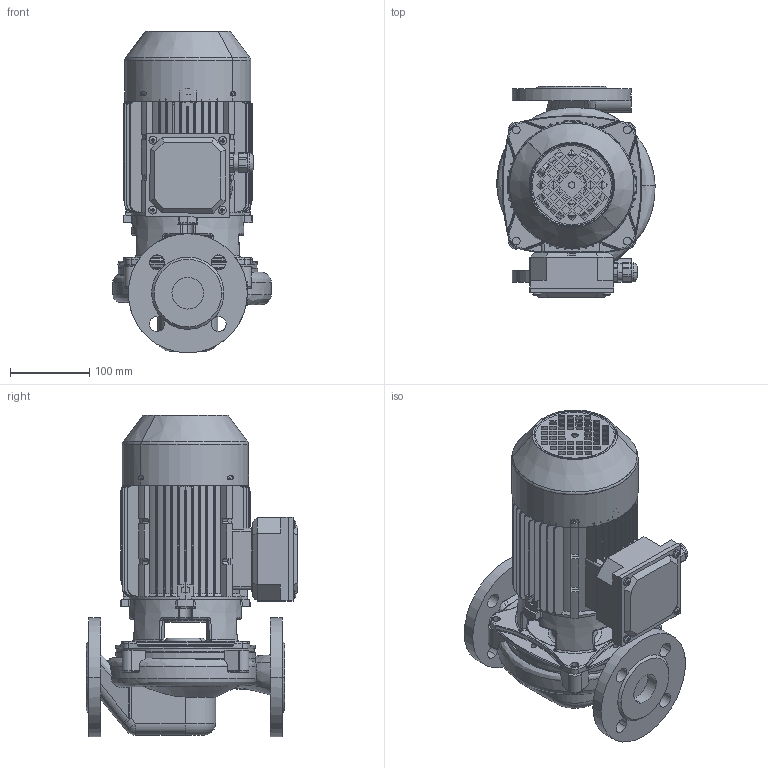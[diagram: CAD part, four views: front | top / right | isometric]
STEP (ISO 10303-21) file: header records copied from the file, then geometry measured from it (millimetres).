
FILE_DESCRIPTION(('STEP AP214'),'1');
FILE_NAME('export.stp','2018-05-29T08:59:41',(' '),(' '),'Spatial InterOp 3D',' ',' ');
FILE_SCHEMA(('AUTOMOTIVE_DESIGN { 1 0 10303 214 1 1 1 1 }'));
Length unit declared in the file: millimetre
Products named in the file (19): W_L40A2110_KP80; V_TLAEAP3233L40A; V_PPL40A; 160029; 160001; V_MKP80-1_N13; 160141; 160137; 160138; 160139; 160140; Koura_Ale_M5; Plug_Blind_M20; Sealing_Plug_M20; DIN_7985-M5X8; DIN_7985-M5X12; 480032; 480031___; 160133
Assembly tree (21 placements, depth 4):
  W_L40A2110_KP80
    V_TLAEAP3233L40A
    V_PPL40A
    V_MKP80-1_N13
      160029
        160001
      160141
        160137
        160138
        160139
        160140
        Koura_Ale_M5
        Plug_Blind_M20
        Sealing_Plug_M20
        DIN_7985-M5X8
        DIN_7985-M5X12  x4
      480032
        480031___
      160133
Bounding box: 199.47 x 266.5 x 405 mm (x, y, z)
Volume: 3271899.6 mm3; surface area: 876856.2 mm2
Topology: 17 solids, 17 shells, 1993 faces, 5410 edges, 3433 vertices
Faces by surface type: plane 873, cylinder 569, torus 221, bspline 176, cone 138, sphere 16
Entity records: 78092 total; most frequent: CARTESIAN_POINT 27198, ORIENTED_EDGE 10436, DIRECTION 9611, EDGE_CURVE 5218, AXIS2_PLACEMENT_3D 3617, VERTEX_POINT 3337, LINE 2377, VECTOR 2377
